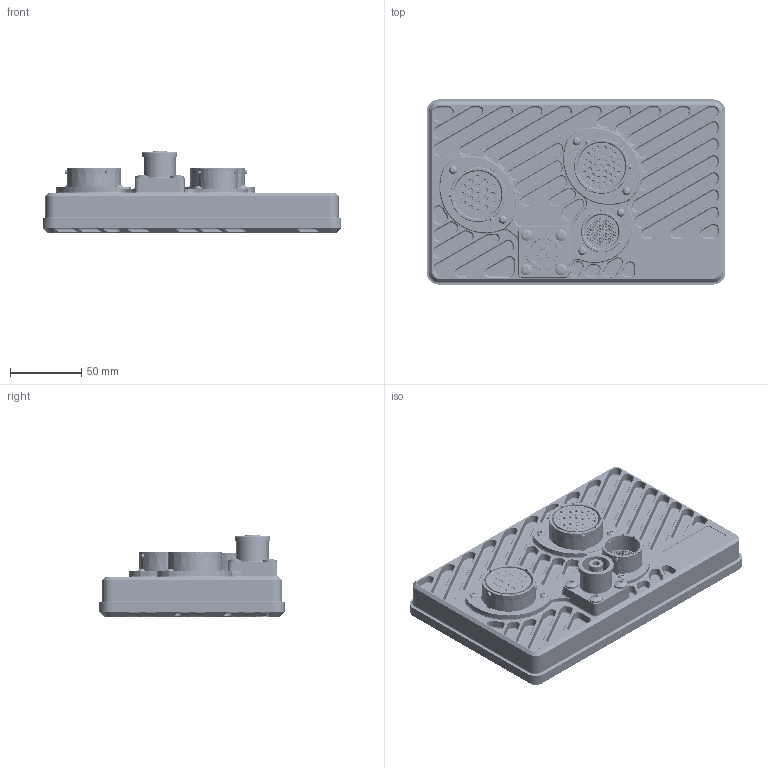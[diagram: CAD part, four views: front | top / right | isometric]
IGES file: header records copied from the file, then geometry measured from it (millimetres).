
Start section: START RECORD GO HERE.
Global section: file name: PDUX3-4BAS M10 Assembly.igs; native system: DASSAULT SYSTEMES CATIA V5 R19 - www.3ds.com; preprocessor: CATIA Version 5 Release 19 SP 9 ; author: mark.labudek; organization: MAPRECISION; date: 20251124.113024; units: millimetre
Bounding box: 209.91 x 130 x 57.15 mm (x, y, z)
Surface area: 149546.3 mm2 (no closed solid volume)
Topology: 0 solids, 0 shells, 6384 faces, 31787 edges, 31506 vertices
Faces by surface type: revolution 5096, plane 1288
